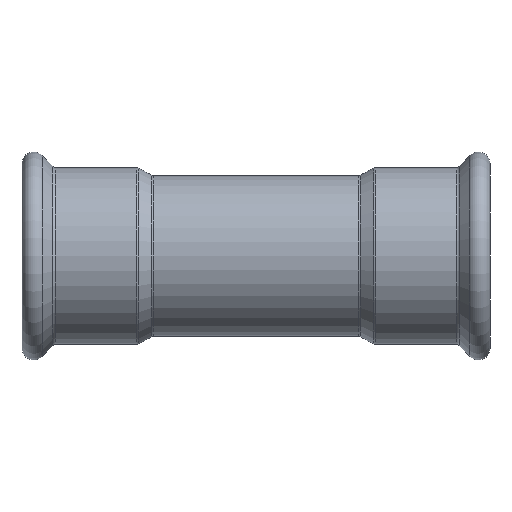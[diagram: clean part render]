
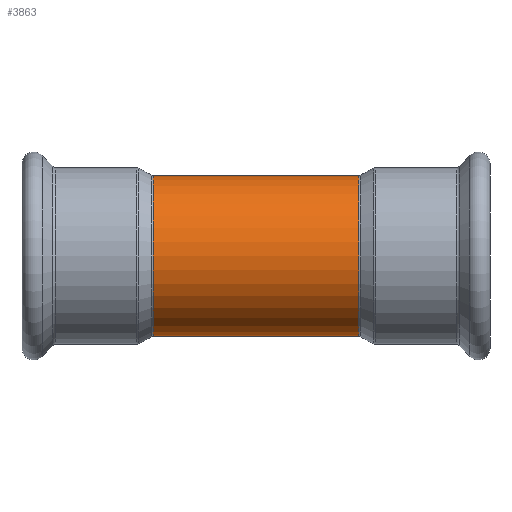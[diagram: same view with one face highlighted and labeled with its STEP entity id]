
A CAD part, front view. The second image highlights one B-rep face of the part: STEP entity #3863.
In plain terms, the highlighted cylindrical face has radius 20.65 mm (diameter 41.3 mm), a partial arc.
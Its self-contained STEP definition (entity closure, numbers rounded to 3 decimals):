
#29 = EDGE_CURVE ( 'NONE', #4037, #3338, #3857, .T. ) ;
#117 = ORIENTED_EDGE ( 'NONE', *, *, #3307, .T. ) ;
#282 = ORIENTED_EDGE ( 'NONE', *, *, #862, .T. ) ;
#472 = CYLINDRICAL_SURFACE ( 'NONE', #2157, 20.65 ) ;
#525 = CARTESIAN_POINT ( 'NONE',  ( 26.377, 0., -20.65 ) ) ;
#789 = CARTESIAN_POINT ( 'NONE',  ( 0., 0., 20.65 ) ) ;
#851 = LINE ( 'NONE', #789, #2375 ) ;
#862 = EDGE_CURVE ( 'NONE', #2370, #3338, #2978, .T. ) ;
#902 = DIRECTION ( 'NONE',  ( -1., 0., 0. ) ) ;
#918 = CIRCLE ( 'NONE', #3430, 20.65 ) ;
#1237 = DIRECTION ( 'NONE',  ( 0., 0., 1. ) ) ;
#1422 = DIRECTION ( 'NONE',  ( 0., 0., 1. ) ) ;
#1597 = EDGE_CURVE ( 'NONE', #4037, #2830, #918, .T. ) ;
#1660 = AXIS2_PLACEMENT_3D ( 'NONE', #2589, #1720, #2381 ) ;
#1720 = DIRECTION ( 'NONE',  ( 1., 0., 0. ) ) ;
#1782 = CARTESIAN_POINT ( 'NONE',  ( -26.377, 0., 20.65 ) ) ;
#1909 = DIRECTION ( 'NONE',  ( -1., 0., 0. ) ) ;
#2132 = ORIENTED_EDGE ( 'NONE', *, *, #29, .F. ) ;
#2157 = AXIS2_PLACEMENT_3D ( 'NONE', #2882, #1909, #1237 ) ;
#2295 = EDGE_LOOP ( 'NONE', ( #2132, #2900, #117, #282 ) ) ;
#2370 = VERTEX_POINT ( 'NONE', #1782 ) ;
#2375 = VECTOR ( 'NONE', #3140, 1000. ) ;
#2381 = DIRECTION ( 'NONE',  ( 0., 0., 1. ) ) ;
#2589 = CARTESIAN_POINT ( 'NONE',  ( -26.377, 0., 0. ) ) ;
#2830 = VERTEX_POINT ( 'NONE', #3384 ) ;
#2882 = CARTESIAN_POINT ( 'NONE',  ( 0., 0., 0. ) ) ;
#2900 = ORIENTED_EDGE ( 'NONE', *, *, #1597, .T. ) ;
#2978 = CIRCLE ( 'NONE', #1660, 20.65 ) ;
#3140 = DIRECTION ( 'NONE',  ( -1., 0., 0. ) ) ;
#3307 = EDGE_CURVE ( 'NONE', #2830, #2370, #851, .T. ) ;
#3338 = VERTEX_POINT ( 'NONE', #3779 ) ;
#3375 = CARTESIAN_POINT ( 'NONE',  ( 26.377, 0., 0. ) ) ;
#3384 = CARTESIAN_POINT ( 'NONE',  ( 26.377, 0., 20.65 ) ) ;
#3430 = AXIS2_PLACEMENT_3D ( 'NONE', #3375, #3757, #1422 ) ;
#3504 = VECTOR ( 'NONE', #902, 1000. ) ;
#3601 = CARTESIAN_POINT ( 'NONE',  ( 0., 0., -20.65 ) ) ;
#3757 = DIRECTION ( 'NONE',  ( -1., 0., 0. ) ) ;
#3767 = FACE_OUTER_BOUND ( 'NONE', #2295, .T. ) ;
#3779 = CARTESIAN_POINT ( 'NONE',  ( -26.377, 0., -20.65 ) ) ;
#3857 = LINE ( 'NONE', #3601, #3504 ) ;
#3863 = ADVANCED_FACE ( 'NONE', ( #3767 ), #472, .T. ) ;
#4037 = VERTEX_POINT ( 'NONE', #525 ) ;
